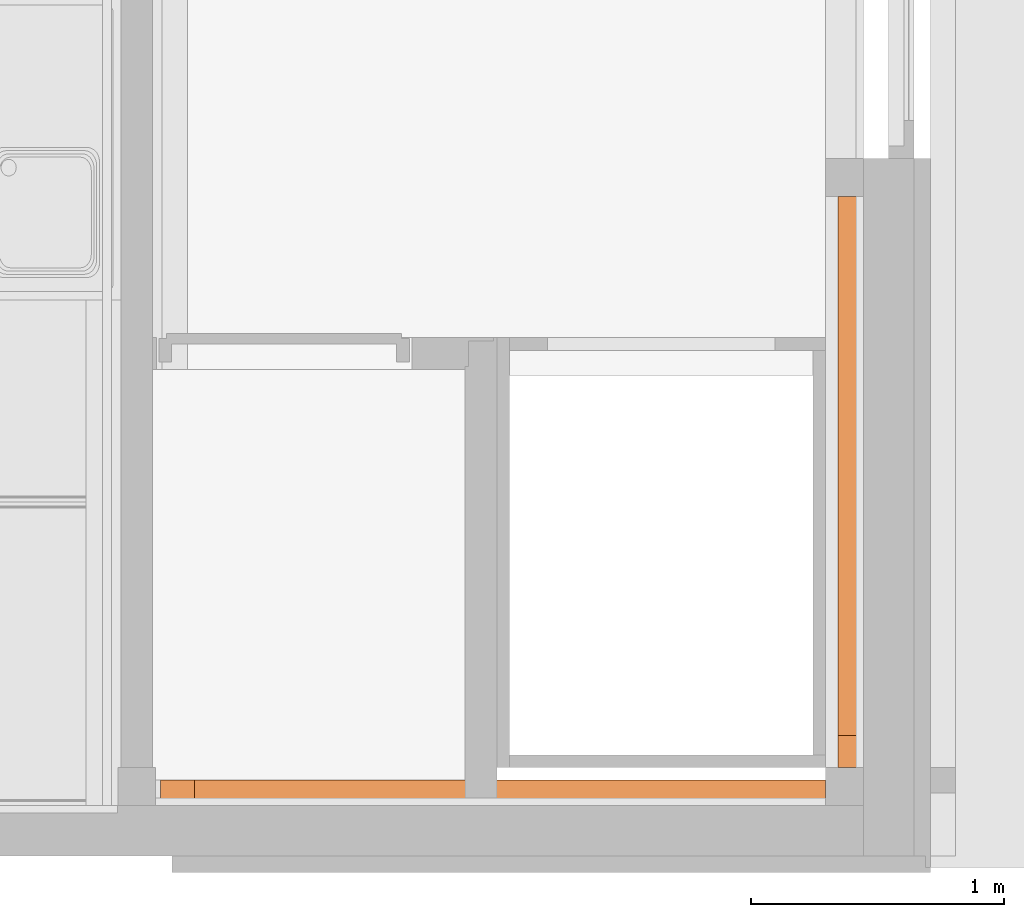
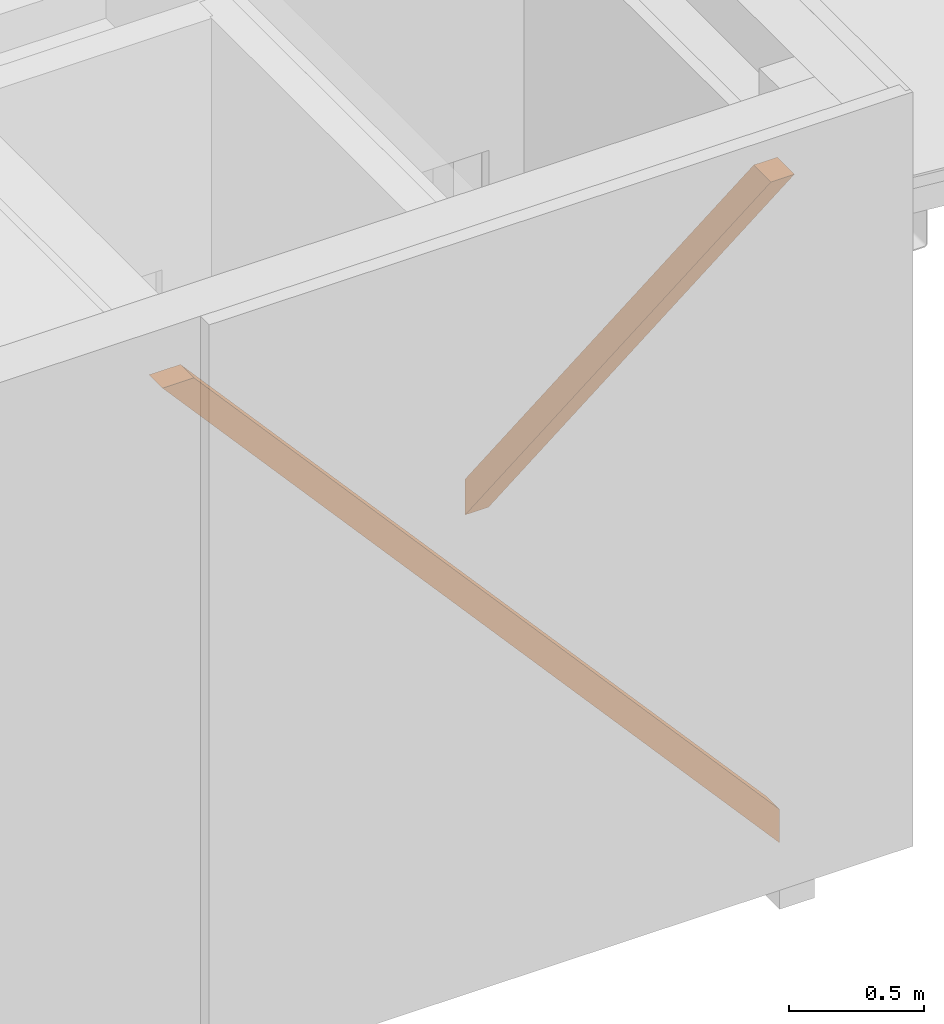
# One storey, part 44 of 45: 2 proxies.
"""IFC2X3 building model written with IfcOpenShell, lengths in millimetres."""

from ifc_helpers import new_model, entity, si_unit, converted_unit, frame, origin, place, context, subcontext, project, spatial, faceted_brep, material, element, save


model = new_model("IFC2X3")

# Units and contexts
model_context = context("Model", 3, precision=1e-05, world=origin())
plan_context = context("Plan", 3, precision=1e-05, world=origin())
body_context = subcontext(model_context, "Body", "Model", "MODEL_VIEW")
ifc_project = project(units=[si_unit("LENGTHUNIT", "METRE", prefix="MILLI"), converted_unit("PLANEANGLEUNIT", "DEGREE", entity("IfcPlaneAngleMeasure", 0.0174532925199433), si_unit("PLANEANGLEUNIT", "RADIAN"), dimensions=[0, 0, 0, 0, 0, 0, 0]), si_unit("AREAUNIT", "SQUARE_METRE"), si_unit("VOLUMEUNIT", "CUBIC_METRE")], contexts=[model_context, plan_context])

# Building, storey
building_placement = place(None, origin())
building = spatial("IfcBuilding", under=ifc_project, at=building_placement, Name="HEKF Administrasjonbygg", CompositionType="ELEMENT")
storey_placement = place(building_placement, frame((0.0, 0.0, 6500.0), z_axis=(0.0, 0.0, 1.0), x_axis=(1.0, 0.0, 0.0)))
storey = spatial("IfcBuildingStorey", under=building, at=storey_placement, Name="Plan 1", CompositionType="ELEMENT", Elevation=6500.0)

# Proxies
ifc_material_1 = material(Name="HUP100x200")
proxy_1_placement = place(storey_placement, frame((29899.99000000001, -11850.00999999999, -0.01000000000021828), z_axis=(0.0, 0.0, 1.0), x_axis=(1.0, 0.0, 0.0)))
element("IfcBuildingElementProxy", 1, at=proxy_1_placement, inside=storey, material=ifc_material_1, context=body_context, shape_type="Brep", body=[
    faceted_brep([(100.0099999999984, 2258.385925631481, 161.7194778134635), (100.0099999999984, 2258.385925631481, 0.01000000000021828), (100.0099999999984, 0.01000000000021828, 2870.010000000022), (100.0099999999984, 127.2576625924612, 2870.010000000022), (0.00999999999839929, 2258.385925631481, 0.01000000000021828), (0.00999999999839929, 2258.385925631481, 161.7194778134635), (0.00999999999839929, 127.2576625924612, 2870.010000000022), (0.00999999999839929, 0.01000000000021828, 2870.010000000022), (100.0099999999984, 2258.385925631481, 0.01000000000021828), (100.0099999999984, 2258.385925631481, 161.7194778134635), (0.00999999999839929, 2258.385925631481, 161.7194778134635), (0.00999999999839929, 2258.385925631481, 0.01000000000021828), (100.0099999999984, 0.01000000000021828, 2870.010000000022), (100.0099999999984, 2258.385925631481, 0.01000000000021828), (0.00999999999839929, 2258.385925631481, 0.01000000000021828), (0.00999999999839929, 0.01000000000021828, 2870.010000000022), (100.0099999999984, 127.2576625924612, 2870.010000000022), (100.0099999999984, 0.01000000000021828, 2870.010000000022), (0.00999999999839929, 0.01000000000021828, 2870.010000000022), (0.00999999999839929, 127.2576625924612, 2870.010000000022), (100.0099999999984, 2258.385925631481, 161.7194778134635), (100.0099999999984, 127.2576625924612, 2870.010000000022), (0.00999999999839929, 127.2576625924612, 2870.010000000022), (0.00999999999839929, 2258.385925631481, 161.7194778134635)], [[[0, 1, 2, 3]], [[4, 5, 6, 7]], [[8, 9, 10, 11]], [[12, 13, 14, 15]], [[16, 17, 18, 19]], [[20, 21, 22, 23]]], orient=[[False], [False], [False], [False], [False], [False]]),
])
ifc_material_2 = material(Name="HUP100x200")
proxy_2_placement = place(storey_placement, frame((27219.81496096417, -12000.01, -0.009999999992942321), z_axis=(0.0, 0.0, 1.0), x_axis=(1.0, 0.0, 0.0)))
element("IfcBuildingElementProxy", 2, at=proxy_2_placement, inside=storey, material=ifc_material_2, context=body_context, shape_type="Brep", body=[
    faceted_brep([(2630.185039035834, 0.01000000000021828, 150.8442828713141), (2630.185039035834, 0.01000000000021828, 0.01000000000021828), (0.00999999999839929, 0.01000000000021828, 2970.009999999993), (133.5859480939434, 0.01000000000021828, 2970.009999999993), (2630.185039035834, 100.0100000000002, 0.01000000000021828), (2630.185039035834, 100.0100000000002, 150.8442828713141), (133.5859480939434, 100.0100000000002, 2970.009999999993), (0.00999999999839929, 100.0100000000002, 2970.009999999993), (2630.185039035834, 0.01000000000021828, 0.01000000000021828), (2630.185039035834, 0.01000000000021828, 150.8442828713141), (2630.185039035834, 100.0100000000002, 150.8442828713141), (2630.185039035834, 100.0100000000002, 0.01000000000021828), (0.00999999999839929, 0.01000000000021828, 2970.009999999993), (2630.185039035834, 0.01000000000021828, 0.01000000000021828), (2630.185039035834, 100.0100000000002, 0.01000000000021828), (0.00999999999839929, 100.0100000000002, 2970.009999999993), (133.5859480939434, 0.01000000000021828, 2970.009999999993), (0.00999999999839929, 0.01000000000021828, 2970.009999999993), (0.00999999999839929, 100.0100000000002, 2970.009999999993), (133.5859480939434, 100.0100000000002, 2970.009999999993), (2630.185039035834, 0.01000000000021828, 150.8442828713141), (133.5859480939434, 0.01000000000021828, 2970.009999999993), (133.5859480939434, 100.0100000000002, 2970.009999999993), (2630.185039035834, 100.0100000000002, 150.8442828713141)], [[[0, 1, 2, 3]], [[4, 5, 6, 7]], [[8, 9, 10, 11]], [[12, 13, 14, 15]], [[16, 17, 18, 19]], [[20, 21, 22, 23]]], orient=[[False], [False], [False], [False], [False], [False]]),
])

save(model, "model.ifc")
